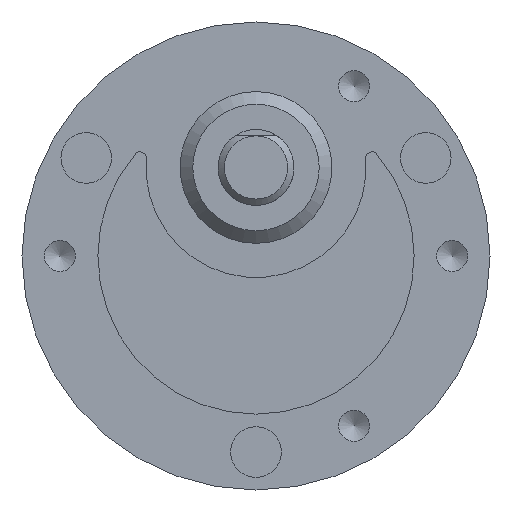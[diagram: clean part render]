
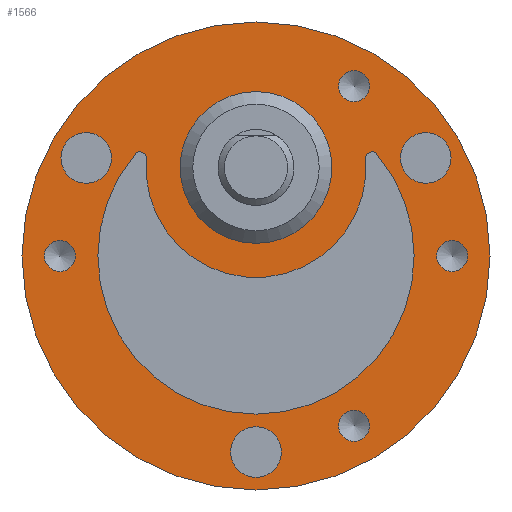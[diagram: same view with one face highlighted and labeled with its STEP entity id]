
A CAD part, front view. The second image highlights one B-rep face of the part: STEP entity #1566.
In plain terms, the highlighted planar face has unit normal (0, -1, 0).
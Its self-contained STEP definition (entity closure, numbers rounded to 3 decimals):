
#759=CARTESIAN_POINT('',(12.423,-1.4,9.482));
#760=VERTEX_POINT('',#759);
#761=CARTESIAN_POINT('',(13.423,-1.4,7.75));
#762=DIRECTION('',(0.0,1.0,0.0));
#763=DIRECTION('',(0.5,0.0,-0.866));
#764=AXIS2_PLACEMENT_3D('',#761,#762,#763);
#765=CIRCLE('',#764,2.);
#766=EDGE_CURVE('',#760,#760,#765,.T.);
#796=CARTESIAN_POINT('',(-14.423,-1.4,6.018));
#797=VERTEX_POINT('',#796);
#798=CARTESIAN_POINT('',(-13.423,-1.4,7.75));
#799=DIRECTION('',(0.0,1.,0.0));
#800=DIRECTION('',(0.5,0.0,0.866));
#801=AXIS2_PLACEMENT_3D('',#798,#799,#800);
#802=CIRCLE('',#801,2.0);
#803=EDGE_CURVE('',#797,#797,#802,.T.);
#833=CARTESIAN_POINT('',(2.0,-1.4,-15.5));
#834=VERTEX_POINT('',#833);
#835=CARTESIAN_POINT('',(0.0,-1.4,-15.5));
#836=DIRECTION('',(0.0,1.0,0.0));
#837=DIRECTION('',(-1.0,0.0,0.0));
#838=AXIS2_PLACEMENT_3D('',#835,#836,#837);
#839=CIRCLE('',#838,2.0);
#840=EDGE_CURVE('',#834,#834,#839,.T.);
#1021=CARTESIAN_POINT('',(6.,-1.4,7.));
#1022=VERTEX_POINT('',#1021);
#1023=CARTESIAN_POINT('',(0.0,-1.4,7.));
#1024=DIRECTION('',(0.0,1.0,0.0));
#1025=DIRECTION('',(-1.0,0.0,0.0));
#1026=AXIS2_PLACEMENT_3D('',#1023,#1024,#1025);
#1027=CIRCLE('',#1026,6.);
#1028=EDGE_CURVE('',#1022,#1022,#1027,.T.);
#1112=CARTESIAN_POINT('',(16.73,-1.4,0.0));
#1113=VERTEX_POINT('',#1112);
#1114=CARTESIAN_POINT('',(15.5,-1.4,0.0));
#1115=DIRECTION('',(0.0,1.0,0.0));
#1116=DIRECTION('',(1.0,0.0,0.0));
#1117=AXIS2_PLACEMENT_3D('',#1114,#1115,#1116);
#1118=CIRCLE('',#1117,1.23);
#1119=EDGE_CURVE('',#1113,#1113,#1118,.T.);
#1191=CARTESIAN_POINT('',(-14.27,-1.4,0.0));
#1192=VERTEX_POINT('',#1191);
#1193=CARTESIAN_POINT('',(-15.5,-1.4,0.0));
#1194=DIRECTION('',(0.0,1.0,0.0));
#1195=DIRECTION('',(1.0,0.0,0.0));
#1196=AXIS2_PLACEMENT_3D('',#1193,#1194,#1195);
#1197=CIRCLE('',#1196,1.23);
#1198=EDGE_CURVE('',#1192,#1192,#1197,.T.);
#1270=CARTESIAN_POINT('',(8.979,-1.4,13.423));
#1271=VERTEX_POINT('',#1270);
#1272=CARTESIAN_POINT('',(7.75,-1.4,13.423));
#1273=DIRECTION('',(0.0,1.0,0.0));
#1274=DIRECTION('',(1.0,0.0,0.0));
#1275=AXIS2_PLACEMENT_3D('',#1272,#1273,#1274);
#1276=CIRCLE('',#1275,1.23);
#1277=EDGE_CURVE('',#1271,#1271,#1276,.T.);
#1349=CARTESIAN_POINT('',(8.979,-1.4,-13.423));
#1350=VERTEX_POINT('',#1349);
#1351=CARTESIAN_POINT('',(7.75,-1.4,-13.423));
#1352=DIRECTION('',(0.0,1.0,0.0));
#1353=DIRECTION('',(1.0,0.0,0.0));
#1354=AXIS2_PLACEMENT_3D('',#1351,#1352,#1353);
#1355=CIRCLE('',#1354,1.23);
#1356=EDGE_CURVE('',#1350,#1350,#1355,.T.);
#1380=CARTESIAN_POINT('',(-9.552,-1.4,8.063));
#1381=VERTEX_POINT('',#1380);
#1388=CARTESIAN_POINT('',(9.552,-1.4,8.063));
#1389=VERTEX_POINT('',#1388);
#1390=CARTESIAN_POINT('',(0.0,-1.4,0.0));
#1391=DIRECTION('',(0.0,1.0,0.0));
#1392=DIRECTION('',(0.764,0.0,-0.645));
#1393=AXIS2_PLACEMENT_3D('',#1390,#1391,#1392);
#1394=CIRCLE('',#1393,12.5);
#1395=EDGE_CURVE('',#1389,#1381,#1394,.T.);
#1421=CARTESIAN_POINT('',(8.672,-1.4,7.7));
#1422=VERTEX_POINT('',#1421);
#1423=CARTESIAN_POINT('',(9.17,-1.4,7.74));
#1424=DIRECTION('',(0.0,1.,0.0));
#1425=DIRECTION('',(-0.764,0.0,-0.645));
#1426=AXIS2_PLACEMENT_3D('',#1423,#1424,#1425);
#1427=CIRCLE('',#1426,0.5);
#1428=EDGE_CURVE('',#1422,#1389,#1427,.T.);
#1454=CARTESIAN_POINT('',(-8.672,-1.4,7.7));
#1455=VERTEX_POINT('',#1454);
#1456=CARTESIAN_POINT('',(0.0,-1.4,7.));
#1457=DIRECTION('',(0.0,-1.,0.0));
#1458=DIRECTION('',(-0.997,0.0,0.08));
#1459=AXIS2_PLACEMENT_3D('',#1456,#1457,#1458);
#1460=CIRCLE('',#1459,8.7);
#1461=EDGE_CURVE('',#1455,#1422,#1460,.T.);
#1485=CARTESIAN_POINT('',(-9.17,-1.4,7.74));
#1486=DIRECTION('',(0.0,1.0,0.0));
#1487=DIRECTION('',(-0.997,0.0,0.08));
#1488=AXIS2_PLACEMENT_3D('',#1485,#1486,#1487);
#1489=CIRCLE('',#1488,0.5);
#1490=EDGE_CURVE('',#1381,#1455,#1489,.T.);
#1516=CARTESIAN_POINT('',(-18.5,-1.4,0.));
#1517=VERTEX_POINT('',#1516);
#1518=CARTESIAN_POINT('',(0.0,-1.4,0.0));
#1519=DIRECTION('',(0.0,-1.0,0.0));
#1520=DIRECTION('',(1.0,0.0,0.0));
#1521=AXIS2_PLACEMENT_3D('',#1518,#1519,#1520);
#1522=CIRCLE('',#1521,18.5);
#1523=EDGE_CURVE('',#1517,#1517,#1522,.T.);
#1528=CARTESIAN_POINT('',(0.0,-1.4,0.0));
#1529=DIRECTION('',(0.0,-1.0,0.0));
#1530=DIRECTION('',(0.0,0.0,-1.0));
#1531=AXIS2_PLACEMENT_3D('',#1528,#1529,#1530);
#1532=PLANE('',#1531);
#1533=ORIENTED_EDGE('',*,*,#1523,.T.);
#1534=EDGE_LOOP('',(#1533));
#1535=FACE_OUTER_BOUND('',#1534,.T.);
#1536=ORIENTED_EDGE('',*,*,#766,.T.);
#1537=EDGE_LOOP('',(#1536));
#1538=FACE_BOUND('',#1537,.T.);
#1539=ORIENTED_EDGE('',*,*,#803,.T.);
#1540=EDGE_LOOP('',(#1539));
#1541=FACE_BOUND('',#1540,.T.);
#1542=ORIENTED_EDGE('',*,*,#840,.T.);
#1543=EDGE_LOOP('',(#1542));
#1544=FACE_BOUND('',#1543,.T.);
#1545=ORIENTED_EDGE('',*,*,#1119,.T.);
#1546=EDGE_LOOP('',(#1545));
#1547=FACE_BOUND('',#1546,.T.);
#1548=ORIENTED_EDGE('',*,*,#1198,.T.);
#1549=EDGE_LOOP('',(#1548));
#1550=FACE_BOUND('',#1549,.T.);
#1551=ORIENTED_EDGE('',*,*,#1277,.T.);
#1552=EDGE_LOOP('',(#1551));
#1553=FACE_BOUND('',#1552,.T.);
#1554=ORIENTED_EDGE('',*,*,#1356,.T.);
#1555=EDGE_LOOP('',(#1554));
#1556=FACE_BOUND('',#1555,.T.);
#1557=ORIENTED_EDGE('',*,*,#1395,.T.);
#1558=ORIENTED_EDGE('',*,*,#1490,.T.);
#1559=ORIENTED_EDGE('',*,*,#1461,.T.);
#1560=ORIENTED_EDGE('',*,*,#1428,.T.);
#1561=EDGE_LOOP('',(#1557,#1558,#1559,#1560));
#1562=FACE_BOUND('',#1561,.T.);
#1563=ORIENTED_EDGE('',*,*,#1028,.T.);
#1564=EDGE_LOOP('',(#1563));
#1565=FACE_BOUND('',#1564,.T.);
#1566=ADVANCED_FACE('',(#1535,#1538,#1541,#1544,#1547,#1550,#1553,#1556,#1562,#1565),#1532,.T.);
